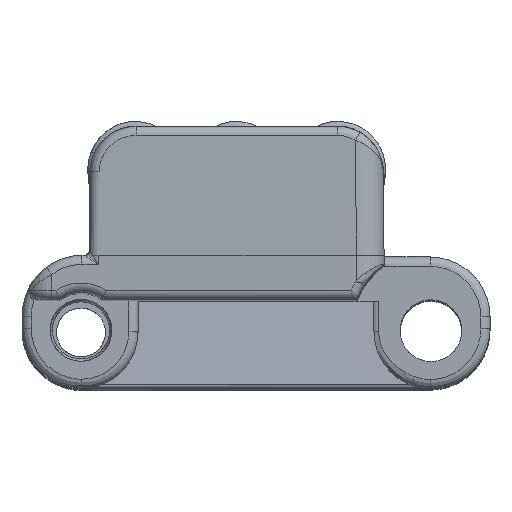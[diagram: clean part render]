
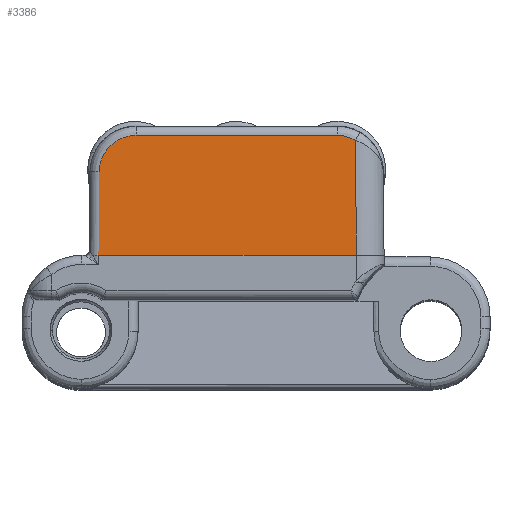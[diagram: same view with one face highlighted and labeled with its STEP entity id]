
A CAD part, top view. The second image highlights one B-rep face of the part: STEP entity #3386.
In plain terms, the highlighted planar face has unit normal (0, 0.009, 1).
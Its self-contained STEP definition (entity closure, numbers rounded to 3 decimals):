
#1115 = CARTESIAN_POINT ( 'NONE',  ( 8.821, 27.309, 152.286 ) ) ;
#1179 = LINE ( 'NONE', #7717, #25278 ) ;
#1460 = LINE ( 'NONE', #3814, #4061 ) ;
#1574 = CARTESIAN_POINT ( 'NONE',  ( -15.348, 27.309, 152.286 ) ) ;
#2027 = LINE ( 'NONE', #19064, #13352 ) ;
#3386 = ADVANCED_FACE ( 'NONE', ( #20843 ), #12661, .T. ) ;
#3797 = DIRECTION ( 'NONE',  ( -0.009, -1., 0.009 ) ) ;
#3814 = CARTESIAN_POINT ( 'NONE',  ( 10.9, 14.3, 152.4 ) ) ;
#3944 = DIRECTION ( 'NONE',  ( -1., 0., 0. ) ) ;
#4061 = VECTOR ( 'NONE', #23087, 1000. ) ;
#4730 = EDGE_CURVE ( 'NONE', #7864, #13463, #1460, .T. ) ;
#5429 = CARTESIAN_POINT ( 'NONE',  ( 10.187, 27.132, 152.288 ) ) ;
#5614 = CARTESIAN_POINT ( 'NONE',  ( -17.098, 14.544, 152.398 ) ) ;
#6152 = CARTESIAN_POINT ( 'NONE',  ( -13.021, 27.309, 152.286 ) ) ;
#6190 = ORIENTED_EDGE ( 'NONE', *, *, #17905, .T. ) ;
#6571 = AXIS2_PLACEMENT_3D ( 'NONE', #25445, #25576, #15040 ) ;
#6999 = VERTEX_POINT ( 'NONE', #7222 ) ;
#7115 = CARTESIAN_POINT ( 'NONE',  ( 8.821, 27.309, 152.286 ) ) ;
#7163 = CARTESIAN_POINT ( 'NONE',  ( 10.791, 26.79, 152.291 ) ) ;
#7222 = CARTESIAN_POINT ( 'NONE',  ( -17.1, 14.3, 152.4 ) ) ;
#7446 = EDGE_CURVE ( 'NONE', #17209, #6999, #24107, .T. ) ;
#7478 = EDGE_CURVE ( 'NONE', #26113, #17209, #8272, .T. ) ;
#7491 = ORIENTED_EDGE ( 'NONE', *, *, #10151, .T. ) ;
#7717 = CARTESIAN_POINT ( 'NONE',  ( 10.9, 14.3, 152.4 ) ) ;
#7749 = ORIENTED_EDGE ( 'NONE', *, *, #4730, .F. ) ;
#7864 = VERTEX_POINT ( 'NONE', #17590 ) ;
#7954 = CARTESIAN_POINT ( 'NONE',  ( -13.021, 27.309, 152.286 ) ) ;
#8272 =( BOUNDED_CURVE ( )  B_SPLINE_CURVE ( 3, ( #6152, #1574, #22934, #17834 ),
 .UNSPECIFIED., .F., .F. ) 
 B_SPLINE_CURVE_WITH_KNOTS ( ( 4, 4 ),
 ( 3.142, 4.704 ),
 .UNSPECIFIED. ) 
 CURVE ( )  GEOMETRIC_REPRESENTATION_ITEM ( )  RATIONAL_B_SPLINE_CURVE ( ( 1., 0.807, 0.807, 1. ) ) 
 REPRESENTATION_ITEM ( '' )  );
#8449 = EDGE_CURVE ( 'NONE', #7864, #8583, #2027, .T. ) ;
#8583 = VERTEX_POINT ( 'NONE', #7163 ) ;
#8640 = LINE ( 'NONE', #20842, #25017 ) ;
#9197 = EDGE_LOOP ( 'NONE', ( #9550, #12167, #6190, #12758, #7749, #25939, #16839, #7491 ) ) ;
#9550 = ORIENTED_EDGE ( 'NONE', *, *, #7478, .T. ) ;
#10151 = EDGE_CURVE ( 'NONE', #15316, #26113, #8640, .T. ) ;
#11021 = DIRECTION ( 'NONE',  ( -0.009, 1., -0.009 ) ) ;
#11105 = VECTOR ( 'NONE', #3797, 1000. ) ;
#11652 = EDGE_CURVE ( 'NONE', #8583, #15316, #18815, .T. ) ;
#12167 = ORIENTED_EDGE ( 'NONE', *, *, #7446, .T. ) ;
#12661 = PLANE ( 'NONE',  #6571 ) ;
#12758 = ORIENTED_EDGE ( 'NONE', *, *, #27219, .T. ) ;
#12821 = VECTOR ( 'NONE', #18209, 1000. ) ;
#13352 = VECTOR ( 'NONE', #11021, 1000. ) ;
#13463 = VERTEX_POINT ( 'NONE', #15120 ) ;
#14053 = CARTESIAN_POINT ( 'NONE',  ( 10.9, 14.3, 152.4 ) ) ;
#15040 = DIRECTION ( 'NONE',  ( 0., -1., 0.009 ) ) ;
#15120 = CARTESIAN_POINT ( 'NONE',  ( 10.9, 14.3, 152.4 ) ) ;
#15316 = VERTEX_POINT ( 'NONE', #7115 ) ;
#16201 = VERTEX_POINT ( 'NONE', #18476 ) ;
#16839 = ORIENTED_EDGE ( 'NONE', *, *, #11652, .T. ) ;
#17209 = VERTEX_POINT ( 'NONE', #21517 ) ;
#17590 = CARTESIAN_POINT ( 'NONE',  ( 10.9, 14.313, 152.4 ) ) ;
#17834 = CARTESIAN_POINT ( 'NONE',  ( -17.021, 23.344, 152.321 ) ) ;
#17905 = EDGE_CURVE ( 'NONE', #6999, #16201, #24201, .T. ) ;
#18209 = DIRECTION ( 'NONE',  ( 1., 0., 0. ) ) ;
#18360 = DIRECTION ( 'NONE',  ( 1., 0., 0. ) ) ;
#18476 = CARTESIAN_POINT ( 'NONE',  ( -17.1, 14.3, 152.4 ) ) ;
#18815 =( BOUNDED_CURVE ( )  B_SPLINE_CURVE ( 3, ( #24574, #5429, #26375, #1115 ),
 .UNSPECIFIED., .F., .F. ) 
 B_SPLINE_CURVE_WITH_KNOTS ( ( 4, 4 ),
 ( 5.768, 6.283 ),
 .UNSPECIFIED. ) 
 CURVE ( )  GEOMETRIC_REPRESENTATION_ITEM ( )  RATIONAL_B_SPLINE_CURVE ( ( 1., 0.978, 0.978, 1. ) ) 
 REPRESENTATION_ITEM ( '' )  );
#19064 = CARTESIAN_POINT ( 'NONE',  ( 10.9, 14.3, 152.4 ) ) ;
#20842 = CARTESIAN_POINT ( 'NONE',  ( -13.021, 27.309, 152.286 ) ) ;
#20843 = FACE_OUTER_BOUND ( 'NONE', #9197, .T. ) ;
#21517 = CARTESIAN_POINT ( 'NONE',  ( -17.021, 23.344, 152.321 ) ) ;
#22934 = CARTESIAN_POINT ( 'NONE',  ( -17.001, 25.671, 152.301 ) ) ;
#23087 = DIRECTION ( 'NONE',  ( 0., -1., 0.009 ) ) ;
#24107 = LINE ( 'NONE', #5614, #11105 ) ;
#24201 = LINE ( 'NONE', #14053, #12821 ) ;
#24574 = CARTESIAN_POINT ( 'NONE',  ( 10.791, 26.79, 152.291 ) ) ;
#25017 = VECTOR ( 'NONE', #3944, 1000. ) ;
#25278 = VECTOR ( 'NONE', #18360, 1000. ) ;
#25445 = CARTESIAN_POINT ( 'NONE',  ( 10.9, 14.3, 152.4 ) ) ;
#25576 = DIRECTION ( 'NONE',  ( 0., 0.009, 1. ) ) ;
#25939 = ORIENTED_EDGE ( 'NONE', *, *, #8449, .T. ) ;
#26113 = VERTEX_POINT ( 'NONE', #7954 ) ;
#26375 = CARTESIAN_POINT ( 'NONE',  ( 9.516, 27.309, 152.286 ) ) ;
#27219 = EDGE_CURVE ( 'NONE', #16201, #13463, #1179, .T. ) ;
